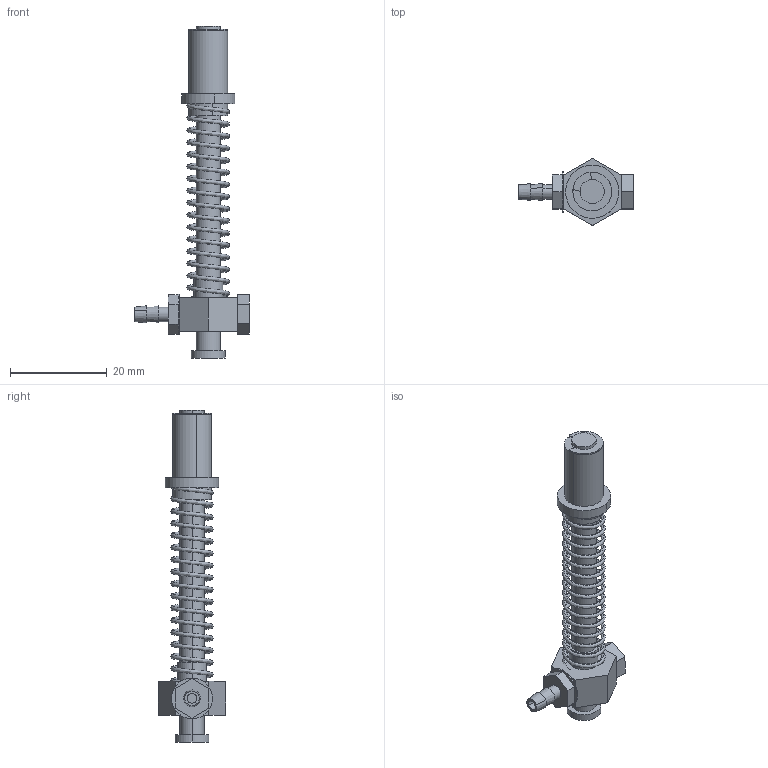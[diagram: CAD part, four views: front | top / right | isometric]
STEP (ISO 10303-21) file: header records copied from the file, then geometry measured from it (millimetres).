
FILE_DESCRIPTION (( 'STEP AP214' ), '1' );
FILE_NAME ('VFS-3008.STEP', '2019-11-16T01:07:50', ( '微软用户' ), ( '微软中国' ), 'SwSTEP 2.0', 'SolidWorks 2016', '' );
FILE_SCHEMA (( 'AUTOMOTIVE_DESIGN' ));
Length unit declared in the file: millimetre
Products named in the file (1): VFS-3008
Bounding box: 23.7 x 13.86 x 68.5 mm (x, y, z)
Volume: 3052 mm3; surface area: 4436.5 mm2
Topology: 8 solids, 8 shells, 131 faces, 305 edges, 202 vertices
Faces by surface type: cylinder 66, plane 54, bspline 7, cone 4
Entity records: 11382 total; most frequent: CARTESIAN_POINT 6936, ORIENTED_EDGE 610, DIRECTION 579, EDGE_CURVE 305, AXIS2_PLACEMENT_3D 217, VERTEX_POINT 202, EDGE_LOOP 153, LINE 145
